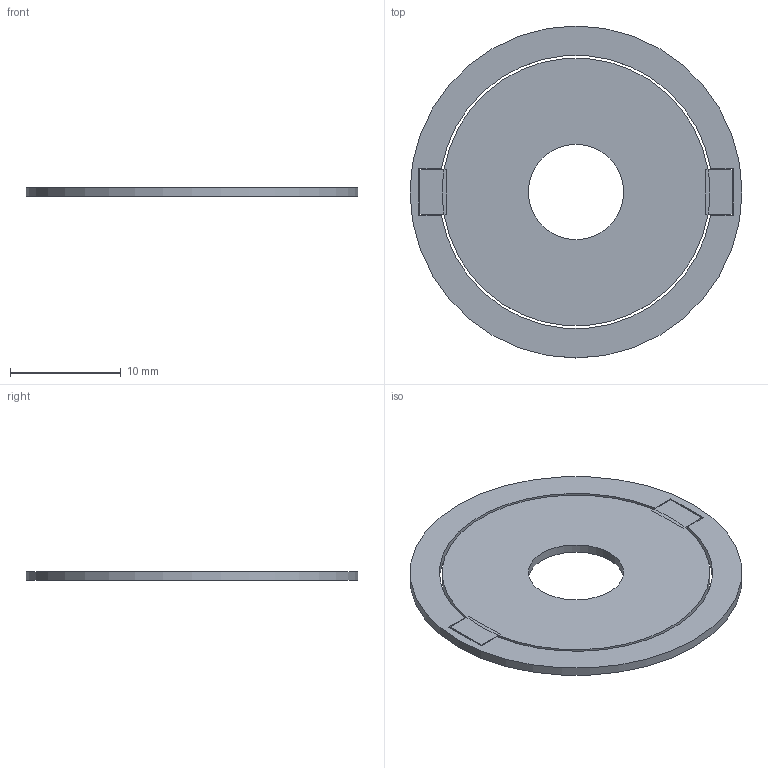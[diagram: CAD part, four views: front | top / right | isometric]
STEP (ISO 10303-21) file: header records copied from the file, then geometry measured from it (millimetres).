
FILE_DESCRIPTION(('Open CASCADE Model'),'2;1');
FILE_NAME('Open CASCADE Shape Model','2026-09-24T05:33:28',('Author'),( 'Open CASCADE'),'Open CASCADE STEP processor 7.8','Open CASCADE 7.8' ,'Unknown');
FILE_SCHEMA(('AUTOMOTIVE_DESIGN { 1 0 10303 214 1 1 1 1 }'));
Length unit declared in the file: millimetre
Products named in the file (3): Open CASCADE STEP translator 7.8 1; Open CASCADE STEP translator 7.8 1.1; Open CASCADE STEP translator 7.8 1.2
Assembly tree (2 placements, depth 2):
  Open CASCADE STEP translator 7.8 1
    Open CASCADE STEP translator 7.8 1.1
    Open CASCADE STEP translator 7.8 1.2
Bounding box: 30 x 30 x 0.8 mm (x, y, z)
Volume: 504.1 mm3; surface area: 1493.5 mm2
Topology: 2 solids, 2 shells, 30 faces, 72 edges, 46 vertices
Faces by surface type: plane 24, cylinder 6
Full cylindrical faces by diameter (mm): 8.6 x1, 30 x1
Entity records: 1826 total; most frequent: CARTESIAN_POINT 323, DIRECTION 272, LINE 146, VECTOR 146, ORIENTED_EDGE 144, PCURVE 144, DEFINITIONAL_REPRESENTATION 144, EDGE_CURVE 72
